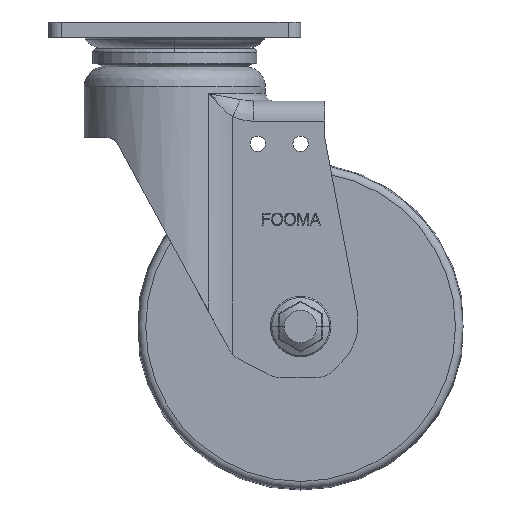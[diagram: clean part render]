
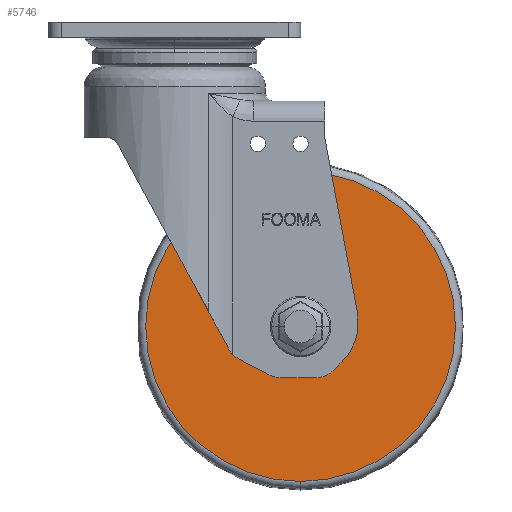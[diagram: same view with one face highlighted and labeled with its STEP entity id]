
A CAD part, front view. The second image highlights one B-rep face of the part: STEP entity #5746.
In plain terms, the highlighted planar face has unit normal (0, -1, 0) as drawn and (0, 0, 1) by its records, which use the part's own axes.
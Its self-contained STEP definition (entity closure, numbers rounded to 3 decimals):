
#2848=CARTESIAN_POINT('',(101.278,62.061,4.));
#2849=VERTEX_POINT('',#2848);
#2858=CARTESIAN_POINT('',(101.278,-61.051,4.));
#2859=VERTEX_POINT('',#2858);
#2867=CARTESIAN_POINT('',(101.278,0.505,4.));
#2868=DIRECTION('',(0.0,0.0,-1.0));
#2869=DIRECTION('',(0.0,1.0,0.0));
#2870=AXIS2_PLACEMENT_3D('',#2867,#2868,#2869);
#2871=CIRCLE('',#2870,61.556);
#2872=EDGE_CURVE('',#2859,#2849,#2871,.T.);
#2916=CARTESIAN_POINT('',(101.278,10.505,4.));
#2917=VERTEX_POINT('',#2916);
#2926=CARTESIAN_POINT('',(101.278,-9.495,4.));
#2927=VERTEX_POINT('',#2926);
#2928=CARTESIAN_POINT('',(101.278,0.505,4.));
#2929=DIRECTION('',(0.0,0.0,-1.0));
#2930=DIRECTION('',(0.0,1.0,0.0));
#2931=AXIS2_PLACEMENT_3D('',#2928,#2929,#2930);
#2932=CIRCLE('',#2931,10.);
#2933=EDGE_CURVE('',#2927,#2917,#2932,.T.);
#5679=CARTESIAN_POINT('',(101.278,0.505,4.));
#5680=DIRECTION('',(0.0,0.0,-1.0));
#5681=DIRECTION('',(0.0,1.0,0.0));
#5682=AXIS2_PLACEMENT_3D('',#5679,#5680,#5681);
#5683=CIRCLE('',#5682,10.);
#5684=EDGE_CURVE('',#2917,#2927,#5683,.T.);
#5727=CARTESIAN_POINT('',(101.278,36.283,4.));
#5728=DIRECTION('',(0.0,0.0,1.0));
#5729=DIRECTION('',(0.0,-1.0,0.0));
#5730=AXIS2_PLACEMENT_3D('',#5727,#5728,#5729);
#5731=PLANE('',#5730);
#5732=CARTESIAN_POINT('',(101.278,0.505,4.));
#5733=DIRECTION('',(0.0,0.0,-1.0));
#5734=DIRECTION('',(0.0,1.0,0.0));
#5735=AXIS2_PLACEMENT_3D('',#5732,#5733,#5734);
#5736=CIRCLE('',#5735,61.556);
#5737=EDGE_CURVE('',#2849,#2859,#5736,.T.);
#5738=ORIENTED_EDGE('',*,*,#5737,.F.);
#5739=ORIENTED_EDGE('',*,*,#2872,.F.);
#5740=EDGE_LOOP('',(#5738,#5739));
#5741=FACE_OUTER_BOUND('',#5740,.T.);
#5742=ORIENTED_EDGE('',*,*,#5684,.T.);
#5743=ORIENTED_EDGE('',*,*,#2933,.T.);
#5744=EDGE_LOOP('',(#5742,#5743));
#5745=FACE_BOUND('',#5744,.T.);
#5746=ADVANCED_FACE('',(#5741,#5745),#5731,.T.);
